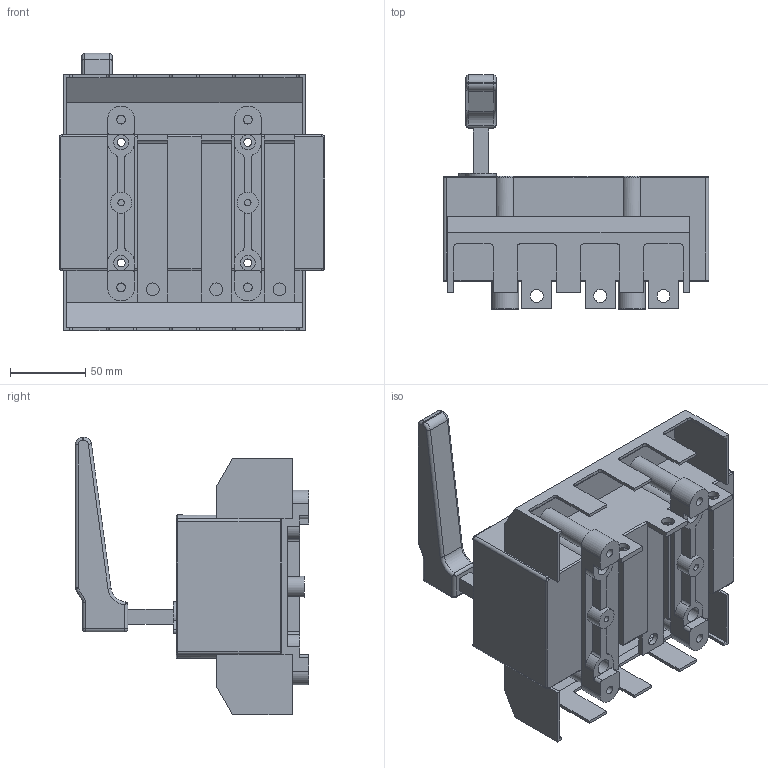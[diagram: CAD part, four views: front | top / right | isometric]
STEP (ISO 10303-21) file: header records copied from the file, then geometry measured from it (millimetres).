
FILE_DESCRIPTION(/* description */ (''),/* implementation_level */ '2;1');
FILE_NAME(/* name */ 'RA250 P3 A-R z oslona zaciskow.stp',/* time_stamp */ '2021-08-18T08:04:07+02:00',/* author */ (''),/* organization */ (''),/* preprocessor_version */ 'ST-DEVELOPER v18.1',/* originating_system */ 'SIEMENS PLM Software NX 1965',/* authorisation */ '');
FILE_SCHEMA (('AUTOMOTIVE_DESIGN { 1 0 10303 214 3 1 1 1 }'));
Length unit declared in the file: millimetre
Products named in the file (1): RA250 P3 A-R z oslona zaciskow_stp
Bounding box: 176 x 155 x 183.9 mm (x, y, z)
Volume: 1261976.3 mm3; surface area: 167123.7 mm2
Topology: 1 solids, 1 shells, 345 faces, 970 edges, 620 vertices
Faces by surface type: plane 174, cylinder 145, torus 15, sphere 6, bspline 5
Full cylindrical faces by diameter (mm): 4.3 x2, 5.3 x4, 5.8 x4, 8.5 x6, 10 x12, 13 x4, 14 x2
Entity records: 10953 total; most frequent: CARTESIAN_POINT 2045, DIRECTION 1890, ORIENTED_EDGE 1812, EDGE_CURVE 906, AXIS2_PLACEMENT_3D 665, VERTEX_POINT 596, LINE 560, VECTOR 560
